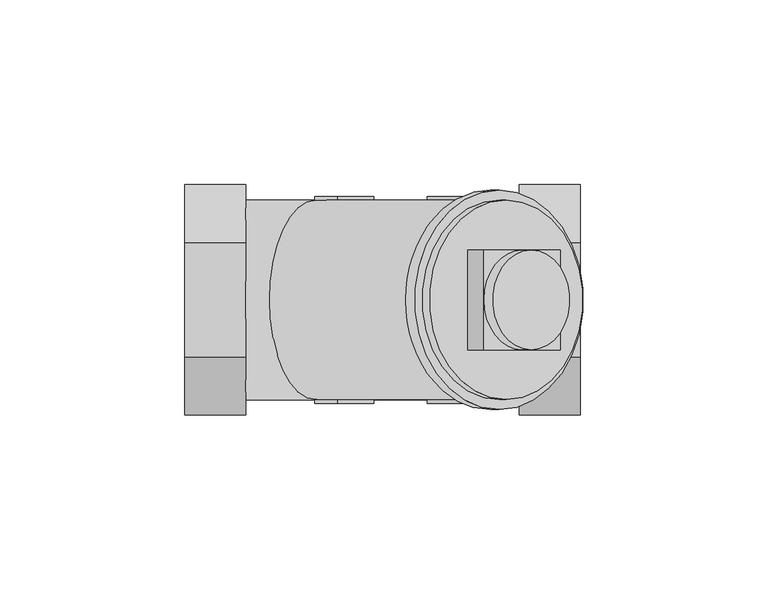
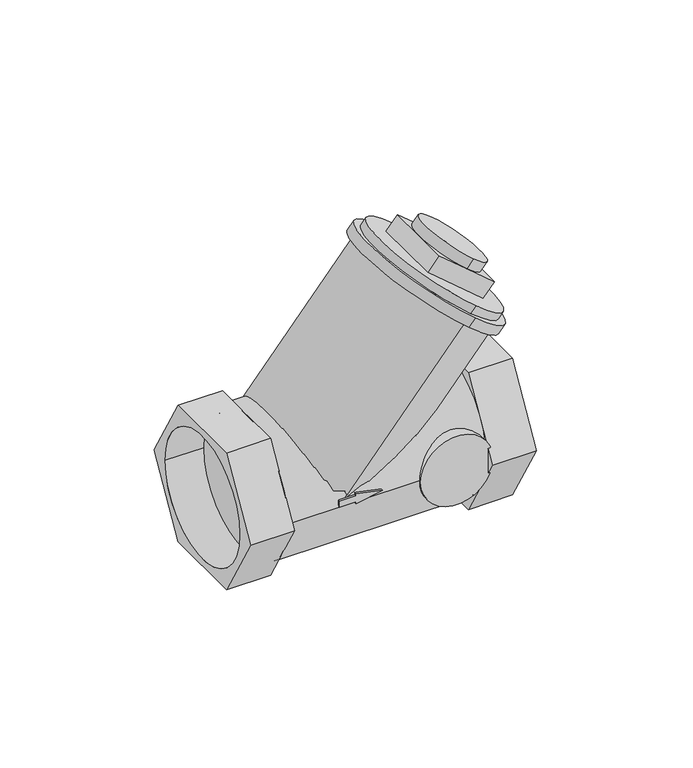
"""IFC4 building model written with IfcOpenShell, lengths in millimetres: valve geometry, 400_5-_KOMF_terugslagklep_PN_25_brons_DN15-50 : DN40 1½”."""

from ifc_helpers import new_model, si_unit, point, frame, frame_2d, origin, origin_2d, place, context, project, spatial, polyline, circle_curve, ellipse_curve, trimmed, segment, composite_curve, outline, extrude, source, transform, mapped, element, save
from ifc_brep_helpers import plane_surface, cylinder_surface, revolved_surface, advanced_brep


def valve_3d6cf8aa(model_context):
    return source(origin(), model_context, "Body", "SolidModel", [
        extrude(outline(composite_curve([segment(trimmed(circle_curve(origin_2d(), 27.0), [point((-27.0, 0.0))], [point((27.0, 0.0))], False, "CARTESIAN"), True, "CONTINUOUS"), segment(trimmed(circle_curve(origin_2d(), 27.0), [point((27.0, 0.0))], [point((-27.0, 0.0))], False, "CARTESIAN"), True, "CONTINUOUS")], self_intersect=False)), frame((-45.4929699, 0.0, 0.0), z_axis=(1.0, 0.0, 0.0), x_axis=(0.0, 1.0, 0.0)), (0.0, 0.0, 1.0), 73.9929669),
        extrude(outline(composite_curve([segment(trimmed(circle_curve(frame_2d((0.0, 16.999997)), 13.5), [point((0.0, 3.499997))], [point((0.0, 30.499997))], False, "CARTESIAN"), True, "CONTINUOUS"), segment(trimmed(circle_curve(frame_2d((0.0, 16.999997)), 13.5), [point((0.0, 30.499997))], [point((0.0, 3.499997))], False, "CARTESIAN"), True, "CONTINUOUS")], self_intersect=False)), frame((0.0, -28.0, 0.0), z_axis=(0.0, 1.0, 0.0), x_axis=(0.0, 0.0, 1.0)), (0.0, 0.0, 1.0), 56.0),
        advanced_brep(
        [(-45.4929699, -15.5884573, 27.0), (-45.4929699, -23.3826859, 13.5), (-45.4929699, -31.1769145, 0.0), (-45.4929699, -23.3826859, -13.5), (-45.4929699, -15.5884573, -27.0), (-45.4929699, 0.0, -27.0), (-45.4929699, 15.5884573, -27.0), (-45.4929699, 23.3826859, -13.5), (-45.4929699, 31.1769145, 0.0), (-45.4929699, 23.3826859, 13.5), (-45.4929699, 15.5884573, 27.0), (-45.4929699, 0.0, 27.0), (-45.4929699, 11.6023873, 15.6711647), (-45.4929699, -11.6023873, 15.6711647), (-62.000003, -15.5884573, 27.0), (-62.000003, 15.5884573, 27.0), (-62.000003, 31.1769145, 0.0), (-62.000003, 15.5884573, -27.0), (-62.000003, -15.5884573, -27.0), (-62.000003, -31.1769145, 0.0), (-62.000003, -24.15, 0.0), (-62.000003, 24.15, 0.0), (-47.500003, -24.15, 0.0), (-47.500003, 24.15, 0.0), (44.999997, -15.5884573, 27.0), (44.999997, -31.1769145, 0.0), (44.999997, -15.5884573, -27.0), (44.999997, 15.5884573, -27.0), (44.999997, 31.1769145, 0.0), (44.999997, 15.5884573, 27.0), (44.999997, 24.15, 0.0), (44.999997, -24.15, 0.0), (28.499997, 10.1492125, 27.0), (28.499997, 15.5884573, 27.0), (28.499997, 23.3826859, 13.5), (28.499997, 31.1769145, 0.0), (28.499997, 23.3826859, -13.5), (28.499997, 15.5884573, -27.0), (28.499997, 0.0, -27.0), (28.499997, -15.5884573, -27.0), (28.499997, -23.3826859, -13.5), (28.499997, -31.1769145, 0.0), (28.499997, -23.3826859, 13.5), (28.499997, -15.5884573, 27.0), (28.499997, -10.1492125, 27.0), (28.499997, -7.9772277, 25.7946475), (28.499997, 7.9772277, 25.7946475), (-26.816803, -28.0, 3.1116273), (-26.816803, -28.0, 0.829442), (-20.6750724, -28.0, 0.829442), (-20.6750724, -28.0, 0.0332575), (-10.8483948, -28.0, 1.9705347), (-20.6750724, -28.0, 3.9078118), (-20.6750724, -28.0, 3.1116273), (-26.816803, 28.0, 3.1116273), (-20.6750724, 28.0, 3.1116273), (-20.6750724, 28.0, 3.9078118), (-10.8483948, 28.0, 1.9705347), (-20.6750724, 28.0, 0.0332575), (-20.6750724, 28.0, 0.829442), (-26.816803, 28.0, 0.829442), (-26.816803, -26.9258155, 3.1116273), (-26.816803, -26.9947355, 0.829442), (-26.816803, 26.9947355, 0.829442), (-26.816803, 26.9258155, 3.1116273), (-26.1208186, -27.0, 0.829442), (-25.0380589, -26.9872567, 0.829442), (-20.6750724, -26.6757766, 0.829442), (-20.6750724, -26.9872567, 0.829442), (-20.6750724, 26.9872567, 0.829442), (-20.6750724, 26.6757766, 0.829442), (-25.0380589, 26.9872567, 0.829442), (-26.1208186, 27.0, 0.829442), (-20.6750724, -26.5906975, 0.0332575), (-20.6750724, -26.9999795, 0.0332575), (-20.6750724, 26.9999795, 0.0332575), (-20.6750724, 26.5906975, 0.0332575), (-10.8483948, -24.6728511, 1.9705347), (-10.8483948, -26.9279965, 1.9705347), (-10.8483948, 26.9279965, 1.9705347), (-10.8483948, 24.6728511, 1.9705347), (-19.1016726, -26.7592432, 3.5976244), (-20.6750724, -26.9107969, 3.9078118), (-20.6750724, 26.9107969, 3.9078118), (-19.1016726, 26.7592432, 3.5976244), (-20.6750724, -26.8641857, 3.1116273), (-20.6750724, 26.8641857, 3.1116273), (-24.2058377, -27.0, 3.1116273), (-24.2058377, 27.0, 3.1116273), (39.4758242, 0.0, 58.002205), (39.4758242, 13.5, 58.002205), (29.1342242, 13.5, 66.6798378), (18.7926243, 13.5, 75.3574705), (18.7926243, 0.0, 75.3574705), (18.7926243, -13.5, 75.3574705), (29.1342242, -13.5, 66.6798378), (39.4758242, -13.5, 58.002205), (14.5663826, 13.5, 70.3208318), (14.5663826, -13.5, 70.3208318), (35.2495825, -13.5, 52.9655663), (35.2495825, 13.5, 52.9655663), (-26.816803, 27.0, 0.0), (-26.816803, -27.0, 0.0), (20.5289366, -27.0, 56.4244553), (20.5289366, 27.0, 56.4244553), (20.5289366, 29.7, 56.4244553), (20.5289366, -29.7, 56.4244553), (22.9662901, 29.7, 59.3291801), (22.9662901, -29.7, 59.3291801), (22.9662901, 27.0, 59.3291801), (22.9662901, -27.0, 59.3291801), (24.9079826, -27.0, 61.6431991), (24.9079826, 27.0, 61.6431991), (31.7015966, 13.5, 69.739513), (31.7015966, -13.5, 69.739513), (30.499997, -24.15, 0.0), (30.499997, 24.15, 0.0)],
        [
            (0, 1),
            (1, 2),
            (2, 3),
            (3, 4),
            (4, 5),
            (5, 6),
            (6, 7),
            (7, 8),
            (8, 9),
            (9, 10),
            (10, 11),
            (11, 0),
            (12, 13),
            (13, 12, ellipse_curve(frame((-45.4929699, 0.0, -22.2573889), z_axis=(-1.0, 0.0, 0.0), x_axis=(0.0, 0.0, 1.0)), 42.0045433, 27.0)),
            (14, 15),
            (15, 16),
            (16, 17),
            (17, 18),
            (18, 19),
            (19, 14),
            (20, 21, circle_curve(frame((-62.000003, 0.0, 0.0), z_axis=(1.0, 0.0, 0.0), x_axis=(0.0, 1.0, 0.0)), 24.15)),
            (21, 20, circle_curve(frame((-62.000003, 0.0, 0.0), z_axis=(1.0, 0.0, 0.0), x_axis=(0.0, 1.0, 0.0)), 24.15)),
            (19, 2),
            (0, 14),
            (18, 4),
            (17, 6),
            (16, 8),
            (15, 10),
            (22, 23, circle_curve(frame((-47.500003, 0.0, 0.0), z_axis=(-1.0, 0.0, 0.0), x_axis=(0.0, 1.0, 0.0)), 24.15)),
            (23, 22, circle_curve(frame((-47.500003, 0.0, 0.0), z_axis=(-1.0, 0.0, 0.0), x_axis=(0.0, 1.0, 0.0)), 24.15)),
            (24, 25),
            (25, 26),
            (26, 27),
            (27, 28),
            (28, 29),
            (29, 24),
            (30, 31, circle_curve(frame((44.999997, 0.0, 0.0), z_axis=(-1.0, 0.0, 0.0), x_axis=(0.0, 1.0, 0.0)), 24.15)),
            (31, 30, circle_curve(frame((44.999997, 0.0, 0.0), z_axis=(-1.0, 0.0, 0.0), x_axis=(0.0, 1.0, 0.0)), 24.15)),
            (32, 33),
            (33, 34),
            (34, 35),
            (35, 36),
            (36, 37),
            (37, 38),
            (38, 39),
            (39, 40),
            (40, 41),
            (41, 42),
            (42, 43),
            (43, 44),
            (44, 45, ellipse_curve(frame((28.499997, 0.0, 65.9239952), z_axis=(1.0, 0.0, 0.0), x_axis=(0.0, 0.0, 1.0)), 42.0045433, 27.0)),
            (45, 46, ellipse_curve(frame((28.499997, 0.0, 65.9239952), z_axis=(1.0, 0.0, 0.0), x_axis=(0.0, 0.0, 1.0)), 42.0045433, 27.0)),
            (46, 32, ellipse_curve(frame((28.499997, 0.0, 65.9239952), z_axis=(1.0, 0.0, 0.0), x_axis=(0.0, 0.0, 1.0)), 42.0045433, 27.0)),
            (24, 43),
            (41, 25),
            (39, 26),
            (37, 27),
            (35, 28),
            (33, 29),
            (32, 44, ellipse_curve(frame((-4.161113, 0.0, 27.0), z_axis=(0.0, 0.0, -1.0), x_axis=(1.0, 0.0, 0.0)), 35.2459968, 27.0)),
            (47, 48),
            (48, 49),
            (49, 50),
            (50, 51),
            (51, 52),
            (52, 53),
            (53, 47),
            (54, 55),
            (55, 56),
            (56, 57),
            (57, 58),
            (58, 59),
            (59, 60),
            (60, 54),
            (47, 61),
            (61, 62, ellipse_curve(frame((-26.816803, 0.0, 0.0), z_axis=(1.0, 0.0, 0.0), x_axis=(0.0, 0.0, 1.0)), 42.0045433, 27.0)),
            (62, 48),
            (60, 63),
            (63, 64, ellipse_curve(frame((-26.816803, 0.0, 0.0), z_axis=(1.0, 0.0, 0.0), x_axis=(0.0, 0.0, 1.0)), 42.0045433, 27.0)),
            (64, 54),
            (62, 65, ellipse_curve(frame((-26.1208186, 0.0, 0.829442), z_axis=(0.0, 0.0, 1.0), x_axis=(1.0, 0.0, 0.0)), 35.2459968, 27.0)),
            (65, 66, ellipse_curve(frame((-26.1208186, 0.0, 0.829442), z_axis=(0.0, 0.0, 1.0), x_axis=(1.0, 0.0, 0.0)), 35.2459968, 27.0)),
            (66, 67, ellipse_curve(frame((-26.1208186, 0.0, 0.829442), z_axis=(0.0, 0.0, 1.0), x_axis=(1.0, 0.0, 0.0)), 35.2459968, 27.0)),
            (67, 68),
            (68, 49),
            (59, 69),
            (69, 70),
            (70, 71, ellipse_curve(frame((-26.1208186, 0.0, 0.829442), z_axis=(0.0, 0.0, 1.0), x_axis=(1.0, 0.0, 0.0)), 35.2459968, 27.0)),
            (71, 72, ellipse_curve(frame((-26.1208186, 0.0, 0.829442), z_axis=(0.0, 0.0, 1.0), x_axis=(1.0, 0.0, 0.0)), 35.2459968, 27.0)),
            (72, 63, ellipse_curve(frame((-26.1208186, 0.0, 0.829442), z_axis=(0.0, 0.0, 1.0), x_axis=(1.0, 0.0, 0.0)), 35.2459968, 27.0)),
            (67, 73, ellipse_curve(frame((-20.6750724, 0.0, 7.3194295), z_axis=(1.0, 0.0, 0.0), x_axis=(0.0, 0.0, 1.0)), 42.0045433, 27.0)),
            (73, 74),
            (74, 50),
            (58, 75),
            (75, 76),
            (76, 70, ellipse_curve(frame((-20.6750724, 0.0, 7.3194295), z_axis=(1.0, 0.0, 0.0), x_axis=(0.0, 0.0, 1.0)), 42.0045433, 27.0)),
            (73, 77, ellipse_curve(frame((-28.0007377, 0.0, -1.4109584), z_axis=(-0.19342173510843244, 0.0, 0.9811157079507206), x_axis=(0.9811157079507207, 0.0, 0.1934217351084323)), 43.0450968, 27.0)),
            (77, 78),
            (78, 51),
            (57, 79),
            (79, 80),
            (80, 76, ellipse_curve(frame((-28.0007377, 0.0, -1.4109584), z_axis=(-0.19342173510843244, 0.0, 0.9811157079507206), x_axis=(0.9811157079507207, 0.0, 0.1934217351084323)), 43.0450968, 27.0)),
            (77, 81, ellipse_curve(frame((-23.1314206, 0.0, 4.3920678), z_axis=(-0.193421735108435, 0.0, -0.98111570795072), x_axis=(0.9811157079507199, 0.0, -0.1934217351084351)), 30.8251787, 27.0)),
            (81, 82, ellipse_curve(frame((-23.1314206, 0.0, 4.3920678), z_axis=(-0.193421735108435, 0.0, -0.98111570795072), x_axis=(0.9811157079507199, 0.0, -0.1934217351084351)), 30.8251787, 27.0)),
            (82, 52),
            (56, 83),
            (83, 84, ellipse_curve(frame((-23.1314206, 0.0, 4.3920678), z_axis=(-0.193421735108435, 0.0, -0.98111570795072), x_axis=(0.9811157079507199, 0.0, -0.1934217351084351)), 30.8251787, 27.0)),
            (84, 80, ellipse_curve(frame((-23.1314206, 0.0, 4.3920678), z_axis=(-0.193421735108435, 0.0, -0.98111570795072), x_axis=(0.9811157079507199, 0.0, -0.1934217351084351)), 30.8251787, 27.0)),
            (82, 85, ellipse_curve(frame((-20.6750724, 0.0, 7.3194295), z_axis=(1.0, 0.0, 0.0), x_axis=(0.0, 0.0, 1.0)), 42.0045433, 27.0)),
            (85, 53),
            (55, 86),
            (86, 83, ellipse_curve(frame((-20.6750724, 0.0, 7.3194295), z_axis=(1.0, 0.0, 0.0), x_axis=(0.0, 0.0, 1.0)), 42.0045433, 27.0)),
            (85, 87, ellipse_curve(frame((-24.2058377, 0.0, 3.1116273), z_axis=(0.0, 0.0, -1.0), x_axis=(1.0, 0.0, 0.0)), 35.2459968, 27.0)),
            (87, 61, ellipse_curve(frame((-24.2058377, 0.0, 3.1116273), z_axis=(0.0, 0.0, -1.0), x_axis=(1.0, 0.0, 0.0)), 35.2459968, 27.0)),
            (64, 88, ellipse_curve(frame((-24.2058377, 0.0, 3.1116273), z_axis=(0.0, 0.0, -1.0), x_axis=(1.0, 0.0, 0.0)), 35.2459968, 27.0)),
            (88, 86, ellipse_curve(frame((-24.2058377, 0.0, 3.1116273), z_axis=(0.0, 0.0, -1.0), x_axis=(1.0, 0.0, 0.0)), 35.2459968, 27.0)),
            (89, 90),
            (90, 91),
            (91, 89, circle_curve(frame((29.1342242, 0.0, 66.6798378), z_axis=(-0.64278760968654, 0.0, -0.7660444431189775), x_axis=(0.0, -1.0, 0.0)), 13.5)),
            (92, 93),
            (93, 91, circle_curve(frame((29.1342242, 0.0, 66.6798378), z_axis=(-0.64278760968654, 0.0, -0.7660444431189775), x_axis=(0.0, -1.0, 0.0)), 13.5)),
            (91, 92),
            (93, 94),
            (94, 95),
            (95, 93, circle_curve(frame((29.1342242, 0.0, 66.6798378), z_axis=(-0.64278760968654, 0.0, -0.7660444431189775), x_axis=(0.0, -1.0, 0.0)), 13.5)),
            (95, 96),
            (96, 89),
            (89, 95, circle_curve(frame((29.1342242, 0.0, 66.6798378), z_axis=(-0.64278760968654, 0.0, -0.7660444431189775), x_axis=(0.0, -1.0, 0.0)), 13.5)),
            (92, 97),
            (97, 98),
            (98, 94),
            (98, 99),
            (99, 96),
            (99, 100),
            (100, 90),
            (100, 97),
            (101, 102, circle_curve(frame((-26.816803, 0.0, 0.0), z_axis=(-0.64278760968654, 0.0, -0.7660444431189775), x_axis=(0.0, -1.0, 0.0)), 27.0)),
            (102, 13, circle_curve(frame((-26.816803, 0.0, 0.0), z_axis=(-0.64278760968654, 0.0, -0.7660444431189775), x_axis=(0.0, -1.0, 0.0)), 27.0)),
            (12, 101, circle_curve(frame((-26.816803, 0.0, 0.0), z_axis=(-0.64278760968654, 0.0, -0.7660444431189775), x_axis=(0.0, -1.0, 0.0)), 27.0)),
            (102, 65),
            (87, 103),
            (103, 104, circle_curve(frame((20.5289366, 0.0, 56.4244553), z_axis=(-0.64278760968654, 0.0, -0.7660444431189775), x_axis=(0.0, -1.0, 0.0)), 27.0)),
            (104, 88),
            (72, 101),
            (104, 103, circle_curve(frame((20.5289366, 0.0, 56.4244553), z_axis=(-0.64278760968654, 0.0, -0.7660444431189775), x_axis=(0.0, -1.0, 0.0)), 27.0)),
            (105, 106, circle_curve(frame((20.5289366, 0.0, 56.4244553), z_axis=(-0.64278760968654, 0.0, -0.7660444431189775), x_axis=(0.0, -1.0, 0.0)), 29.7)),
            (106, 105, circle_curve(frame((20.5289366, 0.0, 56.4244553), z_axis=(-0.64278760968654, 0.0, -0.7660444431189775), x_axis=(0.0, -1.0, 0.0)), 29.7)),
            (107, 108, circle_curve(frame((22.9662901, 0.0, 59.3291801), z_axis=(0.64278760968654, 0.0, 0.7660444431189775), x_axis=(0.0, -1.0, 0.0)), 29.7)),
            (108, 107, circle_curve(frame((22.9662901, 0.0, 59.3291801), z_axis=(0.64278760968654, 0.0, 0.7660444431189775), x_axis=(0.0, -1.0, 0.0)), 29.7)),
            (109, 110, circle_curve(frame((22.9662901, 0.0, 59.3291801), z_axis=(-0.64278760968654, 0.0, -0.7660444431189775), x_axis=(0.0, -1.0, 0.0)), 27.0)),
            (110, 109, circle_curve(frame((22.9662901, 0.0, 59.3291801), z_axis=(-0.64278760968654, 0.0, -0.7660444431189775), x_axis=(0.0, -1.0, 0.0)), 27.0)),
            (111, 112, circle_curve(frame((24.9079826, 0.0, 61.6431991), z_axis=(0.64278760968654, 0.0, 0.7660444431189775), x_axis=(0.0, -1.0, 0.0)), 27.0)),
            (112, 111, circle_curve(frame((24.9079826, 0.0, 61.6431991), z_axis=(0.64278760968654, 0.0, 0.7660444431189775), x_axis=(0.0, -1.0, 0.0)), 27.0)),
            (111, 110),
            (109, 112),
            (113, 114, circle_curve(frame((31.7015966, 0.0, 69.739513), z_axis=(0.64278760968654, 0.0, 0.7660444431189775), x_axis=(0.0, -1.0, 0.0)), 13.5)),
            (114, 113, circle_curve(frame((31.7015966, 0.0, 69.739513), z_axis=(0.64278760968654, 0.0, 0.7660444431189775), x_axis=(0.0, -1.0, 0.0)), 13.5)),
            (113, 91),
            (95, 114),
            (106, 108),
            (107, 105),
            (23, 21),
            (20, 22),
            (115, 116, circle_curve(frame((30.499997, 0.0, 0.0), z_axis=(1.0, 0.0, 0.0), x_axis=(0.0, 1.0, 0.0)), 24.15)),
            (116, 115, circle_curve(frame((30.499997, 0.0, 0.0), z_axis=(1.0, 0.0, 0.0), x_axis=(0.0, 1.0, 0.0)), 24.15)),
            (115, 31),
            (30, 116),
        ],
        [
            plane_surface(frame((-45.4929699, -31.1769145, 0.0), z_axis=(1.0, 0.0, 0.0), x_axis=(0.0, -0.4999999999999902, -0.8660254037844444))),
            plane_surface(frame((-62.000003, -31.1769145, 0.0), z_axis=(-1.0, 0.0, 0.0), x_axis=(0.0, 0.4999999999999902, 0.8660254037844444))),
            plane_surface(frame((-45.4929699, -15.5884573, 27.0), z_axis=(0.0, -0.8660254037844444, 0.4999999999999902), x_axis=(-1.0, 0.0, 0.0))),
            plane_surface(frame((-45.4929699, -31.1769145, 0.0), z_axis=(0.0, -0.8660254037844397, -0.49999999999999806), x_axis=(-1.0, 0.0, 0.0))),
            plane_surface(frame((-45.4929699, -15.5884573, -27.0), z_axis=(0.0, 0.0, -1.0), x_axis=(-1.0, 0.0, 0.0))),
            plane_surface(frame((-45.4929699, 15.5884573, -27.0), z_axis=(0.0, 0.8660254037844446, -0.49999999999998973), x_axis=(-1.0, 0.0, 0.0))),
            plane_surface(frame((-45.4929699, 31.1769145, 0.0), z_axis=(0.0, 0.8660254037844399, 0.4999999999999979), x_axis=(-1.0, 0.0, 0.0))),
            plane_surface(frame((-45.4929699, 15.5884573, 27.0), z_axis=(0.0, 0.0, 1.0), x_axis=(-1.0, 0.0, 0.0))),
            plane_surface(frame((-47.500003, 24.15, 0.0), z_axis=(-1.0, 0.0, 0.0), x_axis=(0.0, 0.0, 1.0))),
            plane_surface(frame((44.999997, -31.1769145, 0.0), z_axis=(1.0000000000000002, 0.0, 0.0), x_axis=(0.0, -0.4999999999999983, -0.8660254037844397))),
            plane_surface(frame((28.499997, -31.1769145, 0.0), z_axis=(-1.0000000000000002, 0.0, 0.0), x_axis=(0.0, 0.4999999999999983, 0.8660254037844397))),
            plane_surface(frame((44.999997, -15.5884573, 27.0), z_axis=(0.0, -0.8660254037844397, 0.4999999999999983), x_axis=(-1.0, 0.0, 0.0))),
            plane_surface(frame((44.999997, -31.1769145, 0.0), z_axis=(0.0, -0.8660254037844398, -0.4999999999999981), x_axis=(-1.0, 0.0, 0.0))),
            plane_surface(frame((44.999997, -15.5884573, -27.0), z_axis=(0.0, 0.0, -1.0), x_axis=(-1.0, 0.0, 0.0))),
            plane_surface(frame((44.999997, 15.5884573, -27.0), z_axis=(0.0, 0.8660254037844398, -0.4999999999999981), x_axis=(-1.0, 0.0, 0.0))),
            plane_surface(frame((44.999997, 31.1769145, 0.0), z_axis=(0.0, 0.8660254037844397, 0.4999999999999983), x_axis=(-1.0, 0.0, 0.0))),
            plane_surface(frame((44.999997, 15.5884573, 27.0), z_axis=(0.0, 0.0, 1.0), x_axis=(-1.0, 0.0, 0.0))),
            plane_surface(frame((-26.816803, -28.0, 0.829442), z_axis=(0.0, -1.0, 0.0), x_axis=(0.0, 0.0, -1.0))),
            plane_surface(frame((-26.816803, 28.0, 0.829442), z_axis=(0.0, 1.0, 0.0), x_axis=(0.0, 0.0, 1.0))),
            plane_surface(frame((-26.816803, -28.0, 3.1116273), z_axis=(-1.0, 0.0, 0.0), x_axis=(0.0, 1.0, 0.0))),
            plane_surface(frame((-26.816803, -28.0, 0.829442), z_axis=(0.0, 0.0, -1.0), x_axis=(0.0, 1.0, 0.0))),
            plane_surface(frame((-20.6750724, -28.0, 0.829442), z_axis=(-1.0, 0.0, 0.0), x_axis=(0.0, 1.0, 0.0))),
            plane_surface(frame((-20.6750724, -28.0, 0.0332575), z_axis=(0.19342173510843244, 0.0, -0.9811157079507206), x_axis=(0.0, 1.0, 0.0))),
            plane_surface(frame((-10.8483948, -28.0, 1.9705347), z_axis=(0.193421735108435, 0.0, 0.98111570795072), x_axis=(0.0, 1.0, 0.0))),
            plane_surface(frame((-20.6750724, -28.0, 3.9078118), z_axis=(-1.0, 0.0, 0.0), x_axis=(0.0, 1.0, 0.0))),
            plane_surface(frame((-20.6750724, -28.0, 3.1116273), z_axis=(0.0, 0.0, 1.0), x_axis=(0.0, 1.0, 0.0))),
            plane_surface(frame((18.7926243, -13.5, 75.3574705), z_axis=(0.64278760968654, 0.0, 0.7660444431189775), x_axis=(0.0, -1.0, 0.0))),
            plane_surface(frame((18.7926243, 13.5, 75.3574705), z_axis=(-0.7660444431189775, 0.0, 0.6427876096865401), x_axis=(-0.6427876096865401, 0.0, -0.7660444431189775))),
            plane_surface(frame((18.7926243, -13.5, 75.3574705), z_axis=(0.0, -1.0, 0.0), x_axis=(-0.6427876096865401, 0.0, -0.7660444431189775))),
            plane_surface(frame((39.4758242, -13.5, 58.002205), z_axis=(0.7660444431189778, 0.0, -0.6427876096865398), x_axis=(-0.6427876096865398, 0.0, -0.7660444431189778))),
            plane_surface(frame((39.4758242, 13.5, 58.002205), z_axis=(0.0, 1.0000000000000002, 0.0), x_axis=(-0.6427876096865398, 0.0, -0.7660444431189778))),
            plane_surface(frame((-26.816803, -27.0, 0.0), z_axis=(-0.64278760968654, 0.0, -0.7660444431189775), x_axis=(-0.7660444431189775, 0.0, 0.64278760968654))),
            cylinder_surface(frame((-26.816803, 0.0, 0.0), z_axis=(0.64278760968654, 0.0, 0.7660444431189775), x_axis=(0.0, -1.0, 0.0)), 27.0),
            plane_surface(frame((20.5289366, -29.7, 56.4244553), z_axis=(-0.64278760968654, 0.0, -0.7660444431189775), x_axis=(-0.7660444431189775, 0.0, 0.64278760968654))),
            plane_surface(frame((22.9662901, -29.7, 59.3291801), z_axis=(0.64278760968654, 0.0, 0.7660444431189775), x_axis=(0.7660444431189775, 0.0, -0.64278760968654))),
            plane_surface(frame((24.9079826, -27.0, 61.6431991), z_axis=(0.64278760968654, 0.0, 0.7660444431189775), x_axis=(0.7660444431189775, 0.0, -0.64278760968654))),
            cylinder_surface(frame((22.9662901, 0.0, 59.3291801), z_axis=(0.64278760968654, 0.0, 0.7660444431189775), x_axis=(0.0, -1.0, 0.0)), 27.0),
            plane_surface(frame((31.7015966, -13.5, 69.739513), z_axis=(0.64278760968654, 0.0, 0.7660444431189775), x_axis=(0.7660444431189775, 0.0, -0.64278760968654))),
            cylinder_surface(frame((29.1342242, 0.0, 66.6798378), z_axis=(0.64278760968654, 0.0, 0.7660444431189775), x_axis=(0.0, -1.0, 0.0)), 13.5),
            cylinder_surface(frame((20.5289366, 0.0, 56.4244553), z_axis=(0.64278760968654, 0.0, 0.7660444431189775), x_axis=(0.0, -1.0, 0.0)), 29.7),
            revolved_surface(polyline([(-47.500003, 24.15, 0.0), (-62.000003, 24.15, 0.0)]), (-62.000003, 0.0, 0.0), (1.0, 0.0, 0.0)),
            plane_surface(frame((30.499997, 24.15, 0.0), z_axis=(1.0, 0.0, 0.0), x_axis=(0.0, 0.0, -1.0))),
            revolved_surface(polyline([(44.999997, 24.15, 0.0), (30.499997, 24.15, 0.0)]), (30.499997, 0.0, 0.0), (1.0, 0.0, 0.0)),
        ],
        [
            (0, [[1, 2, 3, 4, 5, 6, 7, 8, 9, 10, 11, 12], [13, 14]]),
            (1, [[15, 16, 17, 18, 19, 20], [21, 22]]),
            (2, [[-20, 23, -2, -1, 24]]),
            (3, [[-19, 25, -4, -3, -23]]),
            (4, [[-18, 26, -6, -5, -25]]),
            (5, [[-17, 27, -8, -7, -26]]),
            (6, [[-16, 28, -10, -9, -27]]),
            (7, [[-15, -24, -12, -11, -28]]),
            (8, [[29, 30]]),
            (9, [[31, 32, 33, 34, 35, 36], [37, 38]]),
            (10, [[39, 40, 41, 42, 43, 44, 45, 46, 47, 48, 49, 50, 51, 52, 53]]),
            (11, [[-31, 54, -49, -48, 55]]),
            (12, [[-32, -55, -47, -46, 56]]),
            (13, [[-33, -56, -45, -44, 57]]),
            (14, [[-34, -57, -43, -42, 58]]),
            (15, [[-35, -58, -41, -40, 59]]),
            (16, [[-36, -59, -39, 60, -50, -54]]),
            (17, [[61, 62, 63, 64, 65, 66, 67]]),
            (18, [[68, 69, 70, 71, 72, 73, 74]]),
            (19, [[-61, 75, 76, 77]]),
            (19, [[-74, 78, 79, 80]]),
            (20, [[-62, -77, 81, 82, 83, 84, 85]]),
            (20, [[-73, 86, 87, 88, 89, 90, -78]]),
            (21, [[-63, -85, -84, 91, 92, 93]]),
            (21, [[-72, 94, 95, 96, -87, -86]]),
            (22, [[-64, -93, -92, 97, 98, 99]]),
            (22, [[-71, 100, 101, 102, -95, -94]]),
            (23, [[-65, -99, -98, 103, 104, 105]]),
            (23, [[-70, 106, 107, 108, -101, -100]]),
            (24, [[-66, -105, 109, 110]]),
            (24, [[-69, 111, 112, -106]]),
            (25, [[-67, -110, 113, 114, -75]]),
            (25, [[-68, -80, 115, 116, -111]]),
            (26, [[117, 118, 119]]),
            (26, [[120, 121, 122]]),
            (26, [[123, 124, 125]]),
            (26, [[126, 127, 128]]),
            (27, [[129, 130, 131, -123, -120]]),
            (28, [[-131, 132, 133, -126, -124]]),
            (29, [[-133, 134, 135, -117, -127]]),
            (30, [[-129, -122, -118, -135, 136]]),
            (31, [[137, 138, -13, 139]]),
            (32, [[-138, 140, -81, -76, -114, 141, 142, 143, -115, -79, -90, 144, -139, -14]]),
            (32, [[-137, -144, -89, -88, -96, -102, -108, -107, -112, -116, -143, 145, -141, -113, -109, -104, -103, -97, -91, -83, -82, -140], [-60, -53, -52, -51]]),
            (33, [[146, 147], [-142, -145]]),
            (34, [[148, 149], [150, 151]]),
            (35, [[152, 153], [-130, -136, -134, -132]]),
            (36, [[-152, 154, -150, 155]]),
            (36, [[-153, -155, -151, -154]]),
            (37, [[156, 157]]),
            (38, [[-156, 158, -121, -125, 159]]),
            (38, [[-157, -159, -128, -119, -158]]),
            (39, [[-147, 160, -148, 161]]),
            (39, [[-146, -161, -149, -160]]),
            (40, [[-30, 162, -21, 163]]),
            (40, [[-29, -163, -22, -162]]),
            (41, [[164, 165]]),
            (42, [[-164, 166, -37, 167]]),
            (42, [[-165, -167, -38, -166]]),
        ],
    ),
    ])


if __name__ == "__main__":
    model = new_model("IFC4")
    model_context = context("Model", 3, world=origin())
    ifc_project = project(units=[si_unit("LENGTHUNIT", "METRE", prefix="MILLI")], contexts=[model_context])
    site = spatial("IfcSite", under=ifc_project)
    building = spatial("IfcBuilding", under=site)
    placement = place(None, origin())
    valve_shape = valve_3d6cf8aa(model_context)
    element("IfcValve", 1, ObjectType="400_5-_KOMF_terugslagklep_PN_25_brons_DN15-50 : DN40 1½”", at=placement, inside=building, context=model_context, shape_type="MappedRepresentation", body=[
        mapped(valve_shape, transform((0.0, 0.0, 0.0), x_axis=(1.0, 0.0, 0.0), y_axis=(0.0, 1.0, 0.0), z_axis=(0.0, 0.0, 1.0))),
    ])
    save(model, "model.ifc")
